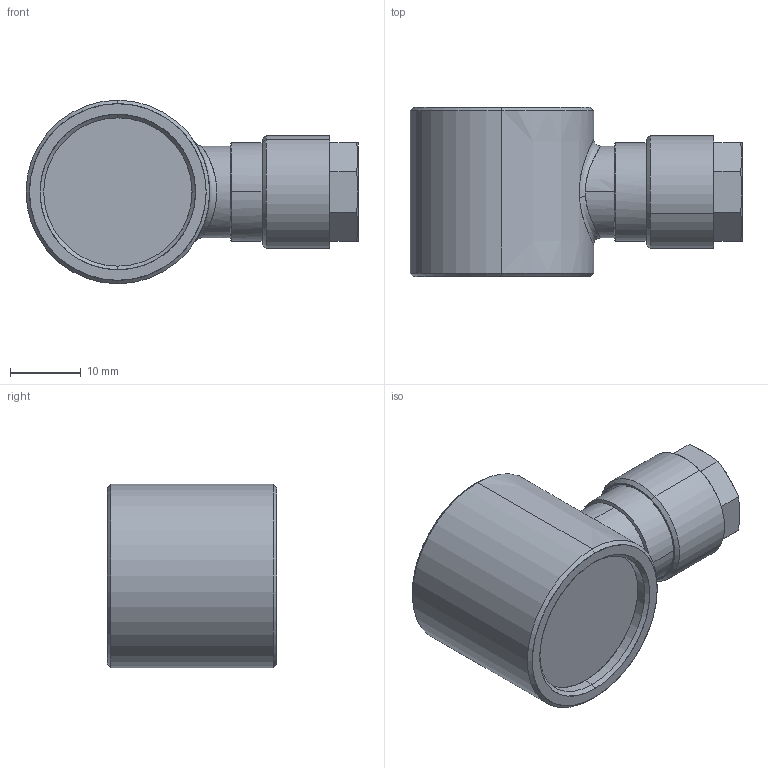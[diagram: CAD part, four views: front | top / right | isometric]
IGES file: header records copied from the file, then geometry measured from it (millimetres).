
Start section: SolidWorks IGES file using analytic representation for surfaces
Global section: file name: K:\Disegni Esecutivi\Serie 1000\Complessivi Serie 1000\1500\1500_iges\0150000018A.IGS; native system: SolidWorks 2008; preprocessor: SolidWorks 2008; author: cad05; date: 090213.170432; units: millimetre
Bounding box: 47 x 24 x 26 mm (x, y, z)
Surface area: 4421.3 mm2 (no closed solid volume)
Topology: 0 solids, 0 shells, 57 faces, 721 edges, 721 vertices
Faces by surface type: revolution 37, bspline 20
